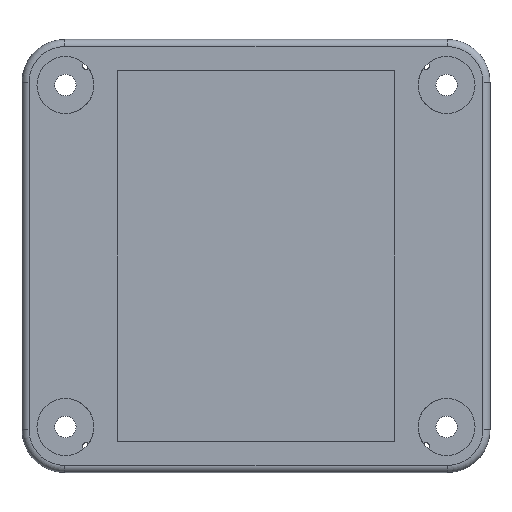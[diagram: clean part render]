
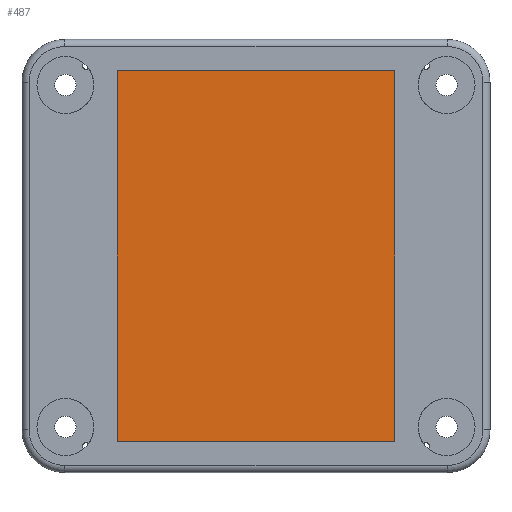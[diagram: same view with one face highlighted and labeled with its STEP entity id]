
A CAD part, front view. The second image highlights one B-rep face of the part: STEP entity #487.
In plain terms, the highlighted planar face has unit normal (0, -1, 0).
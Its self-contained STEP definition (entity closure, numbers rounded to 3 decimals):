
#294 = CARTESIAN_POINT ( 'NONE',  ( 19.5, 0.5, -26. ) ) ;
#487 = ADVANCED_FACE ( 'NONE', ( #1971 ), #1987, .T. ) ;
#921 = LINE ( 'NONE', #4057, #2137 ) ;
#1075 = LINE ( 'NONE', #4198, #5959 ) ;
#1630 = CARTESIAN_POINT ( 'NONE',  ( 19.5, 0.5, 26. ) ) ;
#1657 = LINE ( 'NONE', #3577, #4132 ) ;
#1722 = EDGE_CURVE ( 'NONE', #1861, #4379, #1075, .T. ) ;
#1768 = EDGE_CURVE ( 'NONE', #5622, #1861, #921, .T. ) ;
#1861 = VERTEX_POINT ( 'NONE', #3644 ) ;
#1886 = EDGE_CURVE ( 'NONE', #4032, #5622, #1657, .T. ) ;
#1887 = DIRECTION ( 'NONE',  ( 0., 0., -1. ) ) ;
#1893 = DIRECTION ( 'NONE',  ( 0., -1., 0. ) ) ;
#1895 = CARTESIAN_POINT ( 'NONE',  ( 0., 0.5, 0. ) ) ;
#1940 = EDGE_CURVE ( 'NONE', #4379, #4032, #2705, .T. ) ;
#1971 = FACE_OUTER_BOUND ( 'NONE', #5790, .T. ) ;
#1987 = PLANE ( 'NONE',  #2312 ) ;
#2137 = VECTOR ( 'NONE', #4070, 1000. ) ;
#2312 = AXIS2_PLACEMENT_3D ( 'NONE', #1895, #1893, #1887 ) ;
#2705 = LINE ( 'NONE', #3203, #6313 ) ;
#2979 = ORIENTED_EDGE ( 'NONE', *, *, #1722, .T. ) ;
#3178 = DIRECTION ( 'NONE',  ( 1., 0., 0. ) ) ;
#3203 = CARTESIAN_POINT ( 'NONE',  ( -19.5, 0.5, -26. ) ) ;
#3489 = CARTESIAN_POINT ( 'NONE',  ( -19.5, 0.5, -26. ) ) ;
#3521 = DIRECTION ( 'NONE',  ( 0., 0., 1. ) ) ;
#3577 = CARTESIAN_POINT ( 'NONE',  ( 19.5, 0.5, 26. ) ) ;
#3644 = CARTESIAN_POINT ( 'NONE',  ( -19.5, 0.5, 26. ) ) ;
#4032 = VERTEX_POINT ( 'NONE', #294 ) ;
#4057 = CARTESIAN_POINT ( 'NONE',  ( -19.5, 0.5, 26. ) ) ;
#4070 = DIRECTION ( 'NONE',  ( -1., 0., 0. ) ) ;
#4132 = VECTOR ( 'NONE', #3521, 1000. ) ;
#4145 = DIRECTION ( 'NONE',  ( 0., 0., -1. ) ) ;
#4198 = CARTESIAN_POINT ( 'NONE',  ( -19.5, 0.5, 26. ) ) ;
#4379 = VERTEX_POINT ( 'NONE', #3489 ) ;
#4469 = ORIENTED_EDGE ( 'NONE', *, *, #1886, .T. ) ;
#4983 = ORIENTED_EDGE ( 'NONE', *, *, #1940, .T. ) ;
#5622 = VERTEX_POINT ( 'NONE', #1630 ) ;
#5790 = EDGE_LOOP ( 'NONE', ( #2979, #4983, #4469, #6069 ) ) ;
#5959 = VECTOR ( 'NONE', #4145, 1000. ) ;
#6069 = ORIENTED_EDGE ( 'NONE', *, *, #1768, .T. ) ;
#6313 = VECTOR ( 'NONE', #3178, 1000. ) ;
